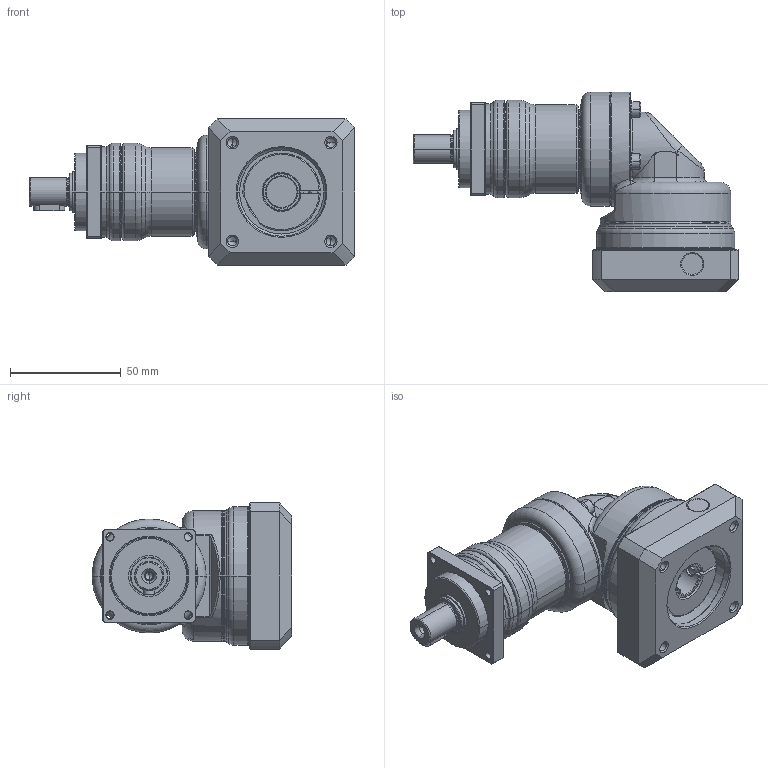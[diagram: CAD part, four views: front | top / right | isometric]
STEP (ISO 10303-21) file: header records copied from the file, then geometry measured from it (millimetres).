
FILE_DESCRIPTION((''),'2;1');
FILE_NAME('PA2R-042_2ST_14-P0411300101_ASM','2016-05-13T',('d01943'),(''),'PRO/ENGINEER BY PARAMETRIC TECHNOLOGY CORPORATION, 2008410','PRO/ENGINEER BY PARAMETRIC TECHNOLOGY CORPORATION, 2008410','');
FILE_SCHEMA(('CONFIG_CONTROL_DESIGN'));
Length unit declared in the file: millimetre
Products named in the file (12): P1327100001; P0251100001; P0350100601; P1349100001; P1017100001; P0713102001; P0503300005; P1350100201; P0411300101; P1702300001; 2111B104015; PA2R-042_2ST_14-P0411300101_ASM
Assembly tree (14 placements, depth 2):
  PA2R-042_2ST_14-P0411300101_ASM
    P1327100001
    P0251100001
    P0350100601
    P1349100001
    P1017100001
    P0713102001
    P0503300005
    P1350100201
    P0411300101
    P1702300001
    2111B104015  x4
Bounding box: 147 x 90.25 x 66 mm (x, y, z)
Volume: 207785.3 mm3; surface area: 80385.6 mm2
Topology: 14 solids, 14 shells, 745 faces, 1636 edges, 945 vertices
Faces by surface type: cylinder 220, cone 214, plane 170, torus 106, bspline 35
Entity records: 23525 total; most frequent: CARTESIAN_POINT 9082, DIRECTION 3199, ORIENTED_EDGE 2800, EDGE_CURVE 1400, AXIS2_PLACEMENT_3D 1351, VERTEX_POINT 825, EDGE_LOOP 729, CIRCLE 714
